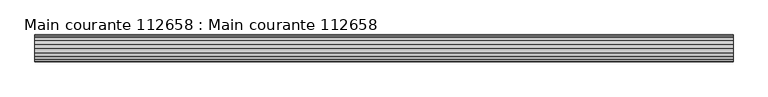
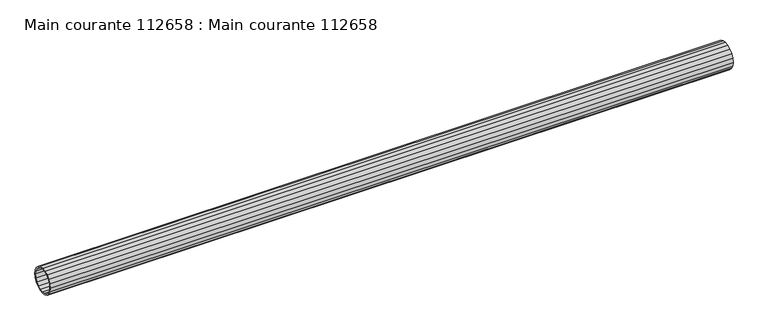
"""IFC4 building model written with IfcOpenShell, lengths in millimetres: beam geometry, Main courante 112658 : Main courante 112658."""

from ifc_helpers import new_model, si_unit, frame, origin, place, context, project, spatial, polyline, outline, extrude, source, transform, mapped, element, save


def main_courante_112658_main_courante_112658_0cbb24a0(model_context):
    return source(origin(), model_context, "Body", "SweptSolid", [
        extrude(outline(polyline([(-35766.5, 8765.0), (-35765.3180149, 8772.4627604), (-35761.8877604, 8779.1950138), (-35756.5450138, 8784.5377604), (-35749.8127604, 8787.9680149), (-35742.35, 8789.15), (-35734.8872396, 8787.9680149), (-35728.1549862, 8784.5377604), (-35722.8122396, 8779.1950138), (-35719.3819851, 8772.4627604), (-35718.2, 8765.0), (-35719.3819851, 8757.5372396), (-35722.8122396, 8750.8049862), (-35728.1549862, 8745.4622396), (-35734.8872396, 8742.0319851), (-35742.35, 8740.85), (-35749.8127604, 8742.0319851), (-35756.5450138, 8745.4622396), (-35761.8877604, 8750.8049862), (-35765.3180149, 8757.5372396), (-35766.5, 8765.0)]), holes=[polyline([(-35720.7, 8765.0), (-35721.7596264, 8771.6902179), (-35724.8347821, 8777.7255507), (-35729.6244493, 8782.5152179), (-35735.6597821, 8785.5903736), (-35742.35, 8786.65), (-35749.0402179, 8785.5903736), (-35755.0755507, 8782.5152179), (-35759.8652179, 8777.7255507), (-35762.9403736, 8771.6902179), (-35764.0, 8765.0), (-35762.9403736, 8758.3097821), (-35759.8652179, 8752.2744493), (-35755.0755507, 8747.4847821), (-35749.0402179, 8744.4096264), (-35742.35, 8743.35), (-35735.6597821, 8744.4096264), (-35729.6244493, 8747.4847821), (-35724.8347821, 8752.2744493), (-35721.7596264, 8758.3097821), (-35720.7, 8765.0)])]), frame((6313.4999999, 0.0, 0.0), z_axis=(1.0, 0.0, 0.0), x_axis=(0.0, 1.0, 0.0)), (0.0, 0.0, 1.0), 1249.5),
    ])


if __name__ == "__main__":
    model = new_model("IFC4")
    model_context = context("Model", 3, world=origin())
    ifc_project = project(units=[si_unit("LENGTHUNIT", "METRE", prefix="MILLI")], contexts=[model_context])
    site = spatial("IfcSite", under=ifc_project)
    building = spatial("IfcBuilding", under=site)
    placement = place(None, origin())
    main_courante_112658_main_courante_112658_shape = main_courante_112658_main_courante_112658_0cbb24a0(model_context)
    element("IfcBeam", 1, ObjectType="Main courante 112658 : Main courante 112658", at=placement, inside=building, context=model_context, shape_type="MappedRepresentation", body=[
        mapped(main_courante_112658_main_courante_112658_shape, transform((0.0, 0.0, 0.0), x_axis=(1.0, 0.0, 0.0), y_axis=(0.0, 1.0, 0.0), z_axis=(0.0, 0.0, 1.0))),
    ])
    save(model, "model.ifc")
